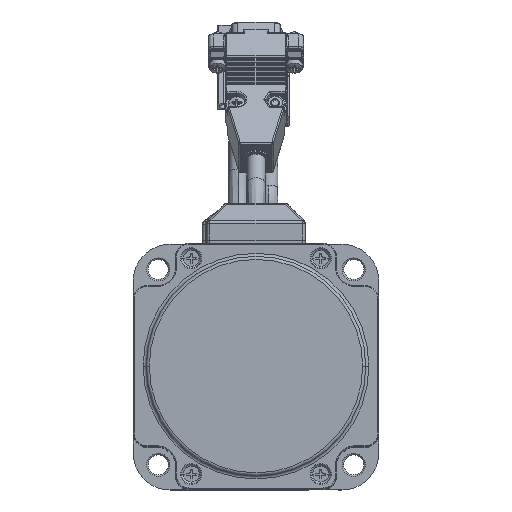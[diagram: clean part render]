
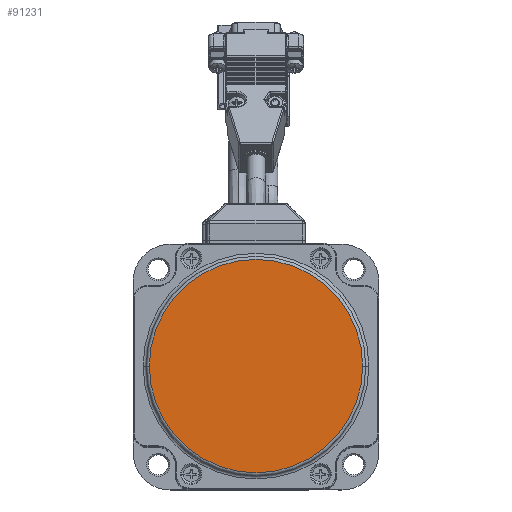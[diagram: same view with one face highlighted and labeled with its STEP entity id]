
A CAD part, top view. The second image highlights one B-rep face of the part: STEP entity #91231.
In plain terms, the highlighted planar face has unit normal (0, 0, 1).
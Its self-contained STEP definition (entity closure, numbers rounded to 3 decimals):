
#8985 = CARTESIAN_POINT ( 'NONE',  ( 0., 0., 6.5 ) ) ;
#8986 = DIRECTION ( 'NONE',  ( 0., 0., 1. ) ) ;
#8987 = DIRECTION ( 'NONE',  ( 1., 0., 0. ) ) ;
#10909 = CARTESIAN_POINT ( 'NONE',  ( 0., 0., 6.5 ) ) ;
#10910 = DIRECTION ( 'NONE',  ( 0., 0., 1. ) ) ;
#10911 = DIRECTION ( 'NONE',  ( 1., 0., 0. ) ) ;
#11590 = CIRCLE ( 'NONE', #11660, 34.75 ) ;
#11660 = AXIS2_PLACEMENT_3D ( 'NONE', #10909, #10910, #10911 ) ;
#13096 = CARTESIAN_POINT ( 'NONE',  ( -34.75, 0., 6.5 ) ) ;
#13753 = CARTESIAN_POINT ( 'NONE',  ( 34.75, 0., 6.5 ) ) ;
#23953 = AXIS2_PLACEMENT_3D ( 'NONE', #34127, #34128, #34129 ) ;
#28163 = ORIENTED_EDGE ( 'NONE', *, *, #60985, .T. ) ;
#28250 = ORIENTED_EDGE ( 'NONE', *, *, #59842, .T. ) ;
#31115 = FACE_OUTER_BOUND ( 'NONE', #90637, .T. ) ;
#34126 = PLANE ( 'NONE',  #23953 ) ;
#34127 = CARTESIAN_POINT ( 'NONE',  ( 0., 0., 6.5 ) ) ;
#34128 = DIRECTION ( 'NONE',  ( 0., 0., 1. ) ) ;
#34129 = DIRECTION ( 'NONE',  ( 1., 0., 0. ) ) ;
#38505 = CIRCLE ( 'NONE', #38506, 34.75 ) ;
#38506 = AXIS2_PLACEMENT_3D ( 'NONE', #8985, #8986, #8987 ) ;
#59842 = EDGE_CURVE ( 'NONE', #75802, #72544, #38505, .T. ) ;
#60985 = EDGE_CURVE ( 'NONE', #72544, #75802, #11590, .T. ) ;
#72544 = VERTEX_POINT ( 'NONE', #13096 ) ;
#75802 = VERTEX_POINT ( 'NONE', #13753 ) ;
#90637 = EDGE_LOOP ( 'NONE', ( #28250, #28163 ) ) ;
#91231 = ADVANCED_FACE ( 'NONE', ( #31115 ), #34126, .T. ) ;
